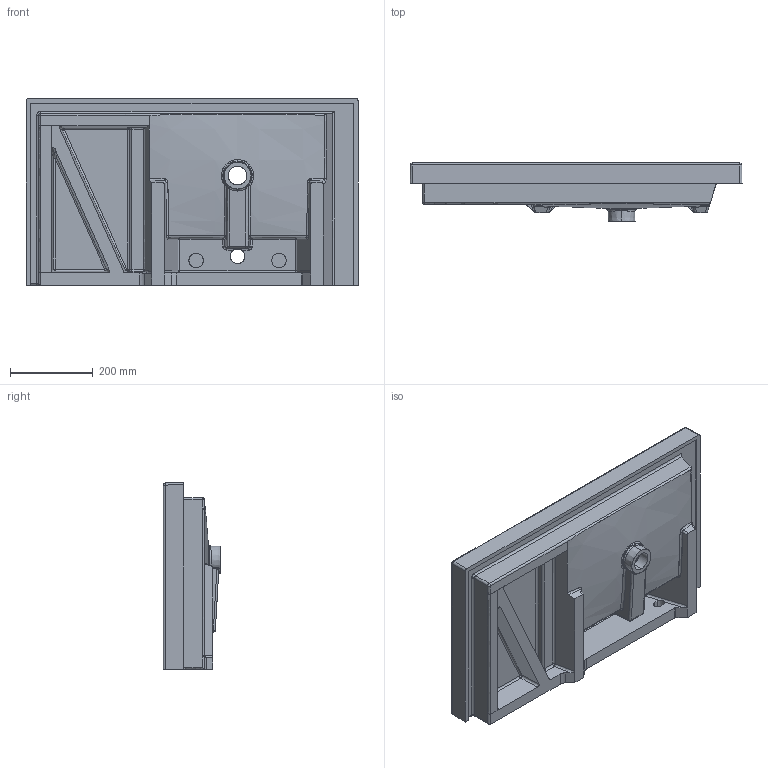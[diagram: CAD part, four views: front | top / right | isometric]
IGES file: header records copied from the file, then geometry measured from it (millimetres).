
Start section: SolidWorks IGES file using analytic representation for surfaces
Global section: file name: K:\lavabi tecla 3D IGS\n. CONDAL (2)\CONDAL 45X80CO01011.IGS; native system: SolidWorks 2013; preprocessor: SolidWorks 2013; author: UTENTE 1; date: 140521.172008; units: millimetre
Bounding box: 801.75 x 140 x 450.87 mm (x, y, z)
Surface area: 1277089 mm2 (no closed solid volume)
Topology: 0 solids, 0 shells, 231 faces, 2925 edges, 2916 vertices
Faces by surface type: bspline 119, revolution 112
